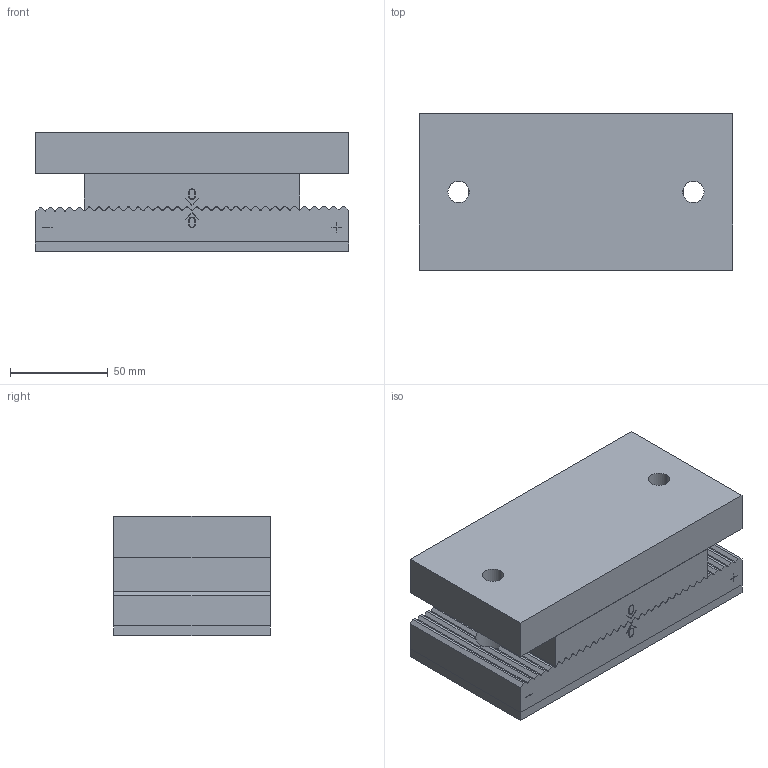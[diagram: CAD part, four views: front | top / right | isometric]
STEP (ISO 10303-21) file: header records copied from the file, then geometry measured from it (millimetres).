
FILE_DESCRIPTION (( 'STEP AP214' ), '1' );
FILE_NAME ('E5310_80x160.STEP', '2018-07-23T14:26:07', ( '' ), ( '' ), 'SwSTEP 2.0', 'SolidWorks 2017', '' );
FILE_SCHEMA (( 'AUTOMOTIVE_DESIGN' ));
Length unit declared in the file: millimetre
Products named in the file (6): E1200_10x20; E5310_3_80x160; E5310_2_80x160; E5310_4_80x160; E5310_1_80x160; E5310_80x160
Assembly tree (5 placements, depth 2):
  E5310_80x160
    E5310_1_80x160
    E5310_4_80x160
    E5310_2_80x160
    E5310_3_80x160
    E1200_10x20
Bounding box: 160 x 80 x 61 mm (x, y, z)
Volume: 671489.8 mm3; surface area: 133970.4 mm2
Topology: 5 solids, 5 shells, 500 faces, 1423 edges, 943 vertices
Faces by surface type: plane 330, cylinder 162, bspline 4, cone 4
Entity records: 18637 total; most frequent: CARTESIAN_POINT 5961, ORIENTED_EDGE 2842, DIRECTION 2228, EDGE_CURVE 1421, VERTEX_POINT 943, LINE 790, VECTOR 790, AXIS2_PLACEMENT_3D 719
